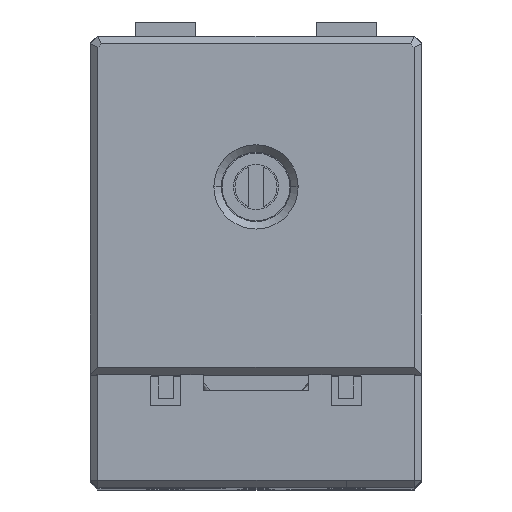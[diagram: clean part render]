
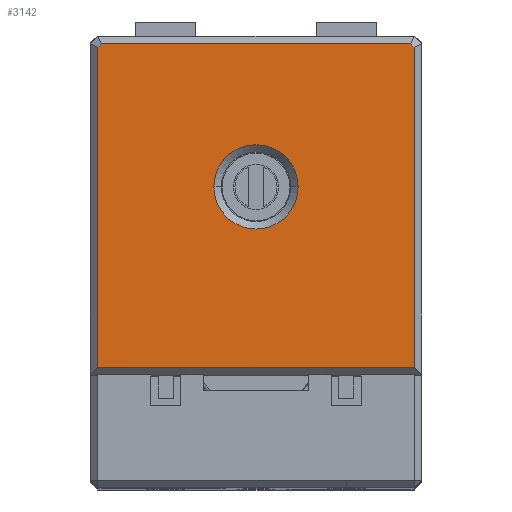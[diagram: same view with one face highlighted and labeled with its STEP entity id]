
A CAD part, top view. The second image highlights one B-rep face of the part: STEP entity #3142.
In plain terms, the highlighted planar face has unit normal (0, 0, 1) as drawn and (0, 0, -1) by its records, which use the part's own axes.
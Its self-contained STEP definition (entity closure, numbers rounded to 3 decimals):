
#330 = CARTESIAN_POINT ( 'NONE',  ( 13.8, 12.5, 0. ) ) ;
#776 = VECTOR ( 'NONE', #8197, 1000. ) ;
#1080 = DIRECTION ( 'NONE',  ( 0., 0., 1. ) ) ;
#1310 = CARTESIAN_POINT ( 'NONE',  ( 0., 0.5, 0. ) ) ;
#1864 = LINE ( 'NONE', #11272, #776 ) ;
#2206 = CARTESIAN_POINT ( 'NONE',  ( 21.5, 0.5, 0. ) ) ;
#2244 = DIRECTION ( 'NONE',  ( -1., 0., 0. ) ) ;
#2448 = CIRCLE ( 'NONE', #21390, 2.8 ) ;
#2919 = EDGE_CURVE ( 'NONE', #24568, #11663, #28448, .T. ) ;
#3142 = ADVANCED_FACE ( 'NONE', ( #36398, #26974 ), #33306, .T. ) ;
#3443 = EDGE_LOOP ( 'NONE', ( #25939, #39977, #11506, #10270, #32026, #12472 ) ) ;
#5325 = DIRECTION ( 'NONE',  ( 0., 0., -1. ) ) ;
#5763 = EDGE_CURVE ( 'NONE', #21704, #14847, #13945, .T. ) ;
#5922 = EDGE_CURVE ( 'NONE', #9277, #24568, #1864, .T. ) ;
#6282 = AXIS2_PLACEMENT_3D ( 'NONE', #21409, #18144, #30578 ) ;
#7650 = LINE ( 'NONE', #1310, #27051 ) ;
#8197 = DIRECTION ( 'NONE',  ( 0.707, 0.707, 0. ) ) ;
#8336 = CARTESIAN_POINT ( 'NONE',  ( 0.707, 22., 0. ) ) ;
#9277 = VERTEX_POINT ( 'NONE', #11981 ) ;
#9867 = EDGE_CURVE ( 'NONE', #11663, #21704, #37232, .T. ) ;
#9878 = DIRECTION ( 'NONE',  ( 0., -1., 0. ) ) ;
#10270 = ORIENTED_EDGE ( 'NONE', *, *, #5922, .T. ) ;
#10303 = CARTESIAN_POINT ( 'NONE',  ( 11., 12.5, 0. ) ) ;
#11272 = CARTESIAN_POINT ( 'NONE',  ( 0.854, 22.146, 0. ) ) ;
#11382 = EDGE_CURVE ( 'NONE', #26776, #24749, #2448, .T. ) ;
#11506 = ORIENTED_EDGE ( 'NONE', *, *, #40099, .T. ) ;
#11516 = CIRCLE ( 'NONE', #6282, 2.8 ) ;
#11663 = VERTEX_POINT ( 'NONE', #18444 ) ;
#11981 = CARTESIAN_POINT ( 'NONE',  ( 0.5, 21.793, 0. ) ) ;
#12163 = VECTOR ( 'NONE', #30236, 1000. ) ;
#12472 = ORIENTED_EDGE ( 'NONE', *, *, #9867, .T. ) ;
#12877 = VECTOR ( 'NONE', #34587, 1000. ) ;
#13006 = CARTESIAN_POINT ( 'NONE',  ( 8.2, 12.5, 0. ) ) ;
#13600 = DIRECTION ( 'NONE',  ( -1., 0., 0. ) ) ;
#13945 = LINE ( 'NONE', #26376, #24254 ) ;
#13963 = CARTESIAN_POINT ( 'NONE',  ( 21.5, 21.793, 0. ) ) ;
#14847 = VERTEX_POINT ( 'NONE', #2206 ) ;
#18144 = DIRECTION ( 'NONE',  ( 0., 0., 1. ) ) ;
#18444 = CARTESIAN_POINT ( 'NONE',  ( 21.293, 22., 0. ) ) ;
#20886 = LINE ( 'NONE', #33313, #12163 ) ;
#21047 = EDGE_CURVE ( 'NONE', #24749, #26776, #11516, .T. ) ;
#21390 = AXIS2_PLACEMENT_3D ( 'NONE', #10303, #1080, #38502 ) ;
#21409 = CARTESIAN_POINT ( 'NONE',  ( 11., 12.5, 0. ) ) ;
#21704 = VERTEX_POINT ( 'NONE', #13963 ) ;
#23532 = CARTESIAN_POINT ( 'NONE',  ( 0., 0., 0. ) ) ;
#24009 = ORIENTED_EDGE ( 'NONE', *, *, #21047, .T. ) ;
#24254 = VECTOR ( 'NONE', #9878, 1000. ) ;
#24568 = VERTEX_POINT ( 'NONE', #8336 ) ;
#24715 = ORIENTED_EDGE ( 'NONE', *, *, #11382, .T. ) ;
#24749 = VERTEX_POINT ( 'NONE', #330 ) ;
#24780 = EDGE_LOOP ( 'NONE', ( #24715, #24009 ) ) ;
#25148 = CARTESIAN_POINT ( 'NONE',  ( 21.646, 21.646, 0. ) ) ;
#25369 = DIRECTION ( 'NONE',  ( 0.707, -0.707, 0. ) ) ;
#25939 = ORIENTED_EDGE ( 'NONE', *, *, #5763, .T. ) ;
#26376 = CARTESIAN_POINT ( 'NONE',  ( 21.5, 0., 0. ) ) ;
#26776 = VERTEX_POINT ( 'NONE', #13006 ) ;
#26974 = FACE_BOUND ( 'NONE', #24780, .T. ) ;
#27051 = VECTOR ( 'NONE', #13600, 1000. ) ;
#28448 = LINE ( 'NONE', #38476, #12877 ) ;
#30236 = DIRECTION ( 'NONE',  ( 0., 1., 0. ) ) ;
#30578 = DIRECTION ( 'NONE',  ( -1., 0., 0. ) ) ;
#31085 = VECTOR ( 'NONE', #25369, 1000. ) ;
#32026 = ORIENTED_EDGE ( 'NONE', *, *, #2919, .T. ) ;
#32727 = EDGE_CURVE ( 'NONE', #14847, #36167, #7650, .T. ) ;
#33306 = PLANE ( 'NONE',  #37665 ) ;
#33313 = CARTESIAN_POINT ( 'NONE',  ( 0.5, 22., 0. ) ) ;
#34357 = CARTESIAN_POINT ( 'NONE',  ( 0.5, 0.5, 0. ) ) ;
#34587 = DIRECTION ( 'NONE',  ( 1., 0., 0. ) ) ;
#36167 = VERTEX_POINT ( 'NONE', #34357 ) ;
#36398 = FACE_OUTER_BOUND ( 'NONE', #3443, .T. ) ;
#37232 = LINE ( 'NONE', #25148, #31085 ) ;
#37665 = AXIS2_PLACEMENT_3D ( 'NONE', #23532, #5325, #2244 ) ;
#38476 = CARTESIAN_POINT ( 'NONE',  ( 21.5, 22., 0. ) ) ;
#38502 = DIRECTION ( 'NONE',  ( -1., 0., 0. ) ) ;
#39977 = ORIENTED_EDGE ( 'NONE', *, *, #32727, .T. ) ;
#40099 = EDGE_CURVE ( 'NONE', #36167, #9277, #20886, .T. ) ;
